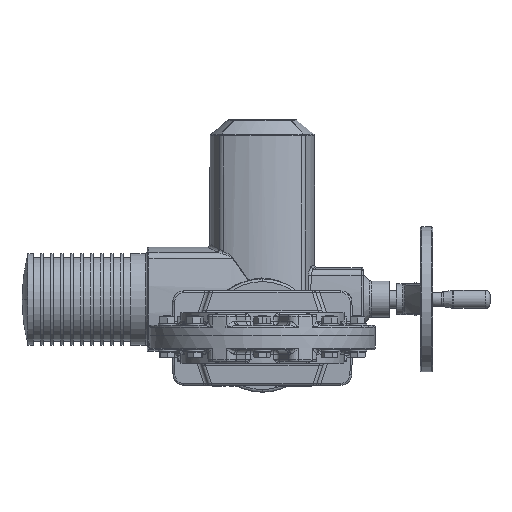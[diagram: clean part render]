
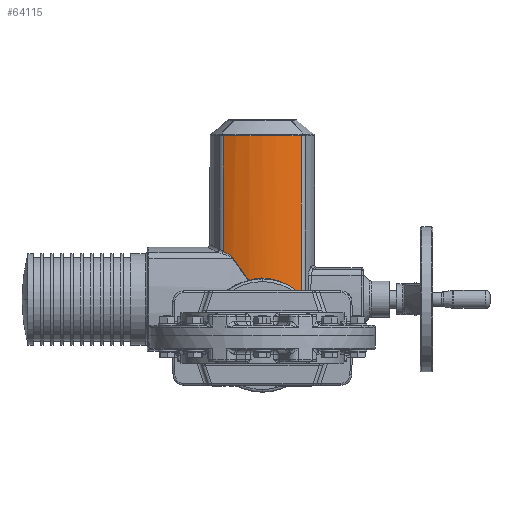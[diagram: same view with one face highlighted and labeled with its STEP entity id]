
A CAD part, front view. The second image highlights one B-rep face of the part: STEP entity #64115.
In plain terms, the highlighted cylindrical face has radius 100 mm (diameter 200 mm), a partial arc.
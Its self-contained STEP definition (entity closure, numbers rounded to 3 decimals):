
#57 = ORIENTED_EDGE ( 'NONE', *, *, #35637, .F. ) ;
#942 = CARTESIAN_POINT ( 'NONE',  ( 38.764, 471.818, 46.82 ) ) ;
#2014 = CARTESIAN_POINT ( 'NONE',  ( -32.398, 469.393, 85.723 ) ) ;
#6946 = CARTESIAN_POINT ( 'NONE',  ( 0., 564., 220.035 ) ) ;
#7142 = CARTESIAN_POINT ( 'NONE',  ( -12.724, 464.787, 61.609 ) ) ;
#7673 = CARTESIAN_POINT ( 'NONE',  ( 17.386, 465.499, 60.082 ) ) ;
#7702 = ORIENTED_EDGE ( 'NONE', *, *, #64591, .T. ) ;
#9619 = VERTEX_POINT ( 'NONE', #82105 ) ;
#11647 = CARTESIAN_POINT ( 'NONE',  ( 36.396, 470.858, 47.439 ) ) ;
#11943 = ORIENTED_EDGE ( 'NONE', *, *, #103906, .T. ) ;
#13974 = VECTOR ( 'NONE', #127283, 1000. ) ;
#14833 = EDGE_CURVE ( 'NONE', #110442, #140112, #127415, .T. ) ;
#15310 = B_SPLINE_CURVE_WITH_KNOTS ( 'NONE', 3,
 ( #95297, #70590, #119460, #47425 ),
 .UNSPECIFIED., .F., .F.,
 ( 4, 4 ),
 ( 0.008, 0.009 ),
 .UNSPECIFIED. ) ;
#18781 = CARTESIAN_POINT ( 'NONE',  ( -43.041, 473.737, 92.391 ) ) ;
#18857 = VERTEX_POINT ( 'NONE', #11647 ) ;
#19090 = DIRECTION ( 'NONE',  ( 1., 0., 0. ) ) ;
#19279 = CARTESIAN_POINT ( 'NONE',  ( -6.964, 464.236, 62.77 ) ) ;
#19821 = CARTESIAN_POINT ( 'NONE',  ( 21.604, 466.356, 58.202 ) ) ;
#23168 = ORIENTED_EDGE ( 'NONE', *, *, #153706, .T. ) ;
#26702 = DIRECTION ( 'NONE',  ( -1., 0., 0. ) ) ;
#31455 = CARTESIAN_POINT ( 'NONE',  ( -3.436, 464.052, 63.155 ) ) ;
#31966 = CARTESIAN_POINT ( 'NONE',  ( 23.652, 466.836, 57.129 ) ) ;
#32934 = CARTESIAN_POINT ( 'NONE',  ( -26.44, 467.376, 77.158 ) ) ;
#35571 = VERTEX_POINT ( 'NONE', #18781 ) ;
#35637 = EDGE_CURVE ( 'NONE', #71082, #140112, #142137, .T. ) ;
#36677 = ORIENTED_EDGE ( 'NONE', *, *, #142208, .T. ) ;
#37281 = CARTESIAN_POINT ( 'NONE',  ( 0., 564., 237.75 ) ) ;
#37413 = CARTESIAN_POINT ( 'NONE',  ( 39.706, 472.219, 46.448 ) ) ;
#37969 = CARTESIAN_POINT ( 'NONE',  ( -39.094, 471.952, 90.65 ) ) ;
#41127 = AXIS2_PLACEMENT_3D ( 'NONE', #6946, #91283, #19090 ) ;
#42136 = CYLINDRICAL_SURFACE ( 'NONE', #150317, 100. ) ;
#43587 = CARTESIAN_POINT ( 'NONE',  ( 1.316, 463.981, 63.304 ) ) ;
#44114 = CARTESIAN_POINT ( 'NONE',  ( 25.164, 467.217, 56.268 ) ) ;
#47045 = VERTEX_POINT ( 'NONE', #56295 ) ;
#47084 = VECTOR ( 'NONE', #54768, 1000. ) ;
#47425 = CARTESIAN_POINT ( 'NONE',  ( 37.791, 471.416, 47.097 ) ) ;
#49576 = CARTESIAN_POINT ( 'NONE',  ( 41.482, 473.005, 45.502 ) ) ;
#50157 = CARTESIAN_POINT ( 'NONE',  ( -36.228, 470.787, 89.011 ) ) ;
#50496 = DIRECTION ( 'NONE',  ( 0., 0., -1. ) ) ;
#50971 = EDGE_CURVE ( 'NONE', #47045, #9619, #150415, .T. ) ;
#53541 = FACE_OUTER_BOUND ( 'NONE', #128757, .T. ) ;
#54768 = DIRECTION ( 'NONE',  ( 0., 0., -1. ) ) ;
#55761 = CARTESIAN_POINT ( 'NONE',  ( 7.186, 464.252, 62.737 ) ) ;
#56252 = CARTESIAN_POINT ( 'NONE',  ( 29.519, 468.438, 53.45 ) ) ;
#56295 = CARTESIAN_POINT ( 'NONE',  ( -32.064, 469.28, 85.242 ) ) ;
#57195 = CARTESIAN_POINT ( 'NONE',  ( -20.733, 465.999, 69.042 ) ) ;
#61657 = CARTESIAN_POINT ( 'NONE',  ( 43.041, 473.737, 44.194 ) ) ;
#61693 = CARTESIAN_POINT ( 'NONE',  ( -43.041, 473.737, 92.391 ) ) ;
#62217 = CARTESIAN_POINT ( 'NONE',  ( -33.985, 469.951, 87.329 ) ) ;
#64115 = ADVANCED_FACE ( 'NONE', ( #53541 ), #42136, .T. ) ;
#64591 = EDGE_CURVE ( 'NONE', #35571, #47045, #83706, .T. ) ;
#67819 = CARTESIAN_POINT ( 'NONE',  ( 10.68, 464.565, 62.077 ) ) ;
#68337 = CARTESIAN_POINT ( 'NONE',  ( 34.788, 470.23, 49.074 ) ) ;
#68734 = CIRCLE ( 'NONE', #41127, 100. ) ;
#70590 = CARTESIAN_POINT ( 'NONE',  ( 36.862, 471.041, 47.327 ) ) ;
#71082 = VERTEX_POINT ( 'NONE', #120819 ) ;
#73777 = CARTESIAN_POINT ( 'NONE',  ( -42.042, 473.26, 92.005 ) ) ;
#74313 = CARTESIAN_POINT ( 'NONE',  ( -32.772, 469.521, 86.153 ) ) ;
#79081 = LINE ( 'NONE', #138905, #47084 ) ;
#79924 = CARTESIAN_POINT ( 'NONE',  ( 15.204, 465.137, 60.862 ) ) ;
#82105 = CARTESIAN_POINT ( 'NONE',  ( -14.967, 465.126, 60.881 ) ) ;
#83392 = ORIENTED_EDGE ( 'NONE', *, *, #14833, .T. ) ;
#83706 = B_SPLINE_CURVE_WITH_KNOTS ( 'NONE', 3,
 ( #61693, #73777, #110059, #37969, #122095, #50157, #134256, #62217, #146399, #74313, #2014, #86372 ),
 .UNSPECIFIED., .F., .F.,
 ( 4, 2, 2, 2, 2, 4 ),
 ( 0., 0.003, 0.007, 0.01, 0.012, 0.014 ),
 .UNSPECIFIED. ) ;
#86372 = CARTESIAN_POINT ( 'NONE',  ( -32.064, 469.28, 85.242 ) ) ;
#91283 = DIRECTION ( 'NONE',  ( 0., 0., -1. ) ) ;
#91484 = CARTESIAN_POINT ( 'NONE',  ( -10.443, 464.52, 62.174 ) ) ;
#91991 = CARTESIAN_POINT ( 'NONE',  ( 20.562, 466.131, 58.699 ) ) ;
#93862 = ORIENTED_EDGE ( 'NONE', *, *, #120307, .T. ) ;
#95297 = CARTESIAN_POINT ( 'NONE',  ( 36.396, 470.858, 47.439 ) ) ;
#103534 = CARTESIAN_POINT ( 'NONE',  ( -5.794, 464.161, 62.927 ) ) ;
#103906 = EDGE_CURVE ( 'NONE', #9619, #18857, #107290, .T. ) ;
#104075 = CARTESIAN_POINT ( 'NONE',  ( 23.143, 466.713, 57.404 ) ) ;
#107290 = B_SPLINE_CURVE_WITH_KNOTS ( 'NONE', 3,
 ( #127254, #7142, #91484, #19279, #103534, #31455, #115664, #43587, #127762, #55761, #139901, #67819, #151974, #79924, #7673, #91991, #19821, #104075, #31966, #116198, #44114, #128290, #56252, #140435, #68337, #152486 ),
 .UNSPECIFIED., .F., .F.,
 ( 4, 2, 2, 2, 2, 2, 2, 2, 2, 2, 2, 2, 4 ),
 ( 0., 0.007, 0.011, 0.014, 0.021, 0.025, 0.028, 0.035, 0.039, 0.041, 0.042, 0.05, 0.057 ),
 .UNSPECIFIED. ) ;
#107362 = ORIENTED_EDGE ( 'NONE', *, *, #50971, .T. ) ;
#109473 = CARTESIAN_POINT ( 'NONE',  ( 37.791, 471.416, 47.097 ) ) ;
#110059 = CARTESIAN_POINT ( 'NONE',  ( -41.052, 472.808, 91.582 ) ) ;
#110442 = VERTEX_POINT ( 'NONE', #127194 ) ;
#114070 = CARTESIAN_POINT ( 'NONE',  ( 43.041, 473.737, 44.194 ) ) ;
#114682 = VERTEX_POINT ( 'NONE', #143281 ) ;
#115188 = CARTESIAN_POINT ( 'NONE',  ( 43.041, 473.737, 237.75 ) ) ;
#115664 = CARTESIAN_POINT ( 'NONE',  ( -2.243, 464.018, 63.226 ) ) ;
#116198 = CARTESIAN_POINT ( 'NONE',  ( 24.662, 467.087, 56.561 ) ) ;
#117160 = CARTESIAN_POINT ( 'NONE',  ( -32.064, 469.28, 85.242 ) ) ;
#119460 = CARTESIAN_POINT ( 'NONE',  ( 37.328, 471.227, 47.213 ) ) ;
#120307 = EDGE_CURVE ( 'NONE', #18857, #110442, #15310, .T. ) ;
#120819 = CARTESIAN_POINT ( 'NONE',  ( 43.041, 473.737, 220.035 ) ) ;
#121539 = CARTESIAN_POINT ( 'NONE',  ( 40.164, 472.419, 46.232 ) ) ;
#122095 = CARTESIAN_POINT ( 'NONE',  ( -38.126, 471.548, 90.142 ) ) ;
#127194 = CARTESIAN_POINT ( 'NONE',  ( 37.791, 471.416, 47.097 ) ) ;
#127254 = CARTESIAN_POINT ( 'NONE',  ( -14.967, 465.126, 60.881 ) ) ;
#127283 = DIRECTION ( 'NONE',  ( 0., 0., -1. ) ) ;
#127415 = B_SPLINE_CURVE_WITH_KNOTS ( 'NONE', 3,
 ( #109473, #145312, #942, #37413, #121539, #49576, #133668, #61657 ),
 .UNSPECIFIED., .F., .F.,
 ( 4, 2, 2, 4 ),
 ( 0., 0.002, 0.003, 0.007 ),
 .UNSPECIFIED. ) ;
#127762 = CARTESIAN_POINT ( 'NONE',  ( 3.673, 464.04, 63.181 ) ) ;
#128290 = CARTESIAN_POINT ( 'NONE',  ( 27.641, 467.874, 54.766 ) ) ;
#128757 = EDGE_LOOP ( 'NONE', ( #23168, #7702, #107362, #11943, #93862, #83392, #57, #36677 ) ) ;
#133668 = CARTESIAN_POINT ( 'NONE',  ( 42.296, 473.381, 44.907 ) ) ;
#134256 = CARTESIAN_POINT ( 'NONE',  ( -35.292, 470.43, 88.385 ) ) ;
#138905 = CARTESIAN_POINT ( 'NONE',  ( -43.041, 473.737, 237.75 ) ) ;
#139901 = CARTESIAN_POINT ( 'NONE',  ( 8.354, 464.343, 62.546 ) ) ;
#140112 = VERTEX_POINT ( 'NONE', #114070 ) ;
#140435 = CARTESIAN_POINT ( 'NONE',  ( 33.093, 469.616, 50.604 ) ) ;
#141409 = CARTESIAN_POINT ( 'NONE',  ( -14.967, 465.126, 60.881 ) ) ;
#142137 = LINE ( 'NONE', #115188, #13974 ) ;
#142208 = EDGE_CURVE ( 'NONE', #71082, #114682, #68734, .T. ) ;
#143281 = CARTESIAN_POINT ( 'NONE',  ( -43.041, 473.737, 220.035 ) ) ;
#145312 = CARTESIAN_POINT ( 'NONE',  ( 38.283, 471.617, 46.974 ) ) ;
#146399 = CARTESIAN_POINT ( 'NONE',  ( -33.565, 469.8, 86.957 ) ) ;
#150317 = AXIS2_PLACEMENT_3D ( 'NONE', #37281, #50496, #26702 ) ;
#150415 = B_SPLINE_CURVE_WITH_KNOTS ( 'NONE', 3,
 ( #117160, #32934, #57195, #141409 ),
 .UNSPECIFIED., .F., .F.,
 ( 4, 4 ),
 ( 0., 0.03 ),
 .UNSPECIFIED. ) ;
#151974 = CARTESIAN_POINT ( 'NONE',  ( 11.825, 464.695, 61.802 ) ) ;
#152486 = CARTESIAN_POINT ( 'NONE',  ( 36.396, 470.858, 47.439 ) ) ;
#153706 = EDGE_CURVE ( 'NONE', #114682, #35571, #79081, .T. ) ;
